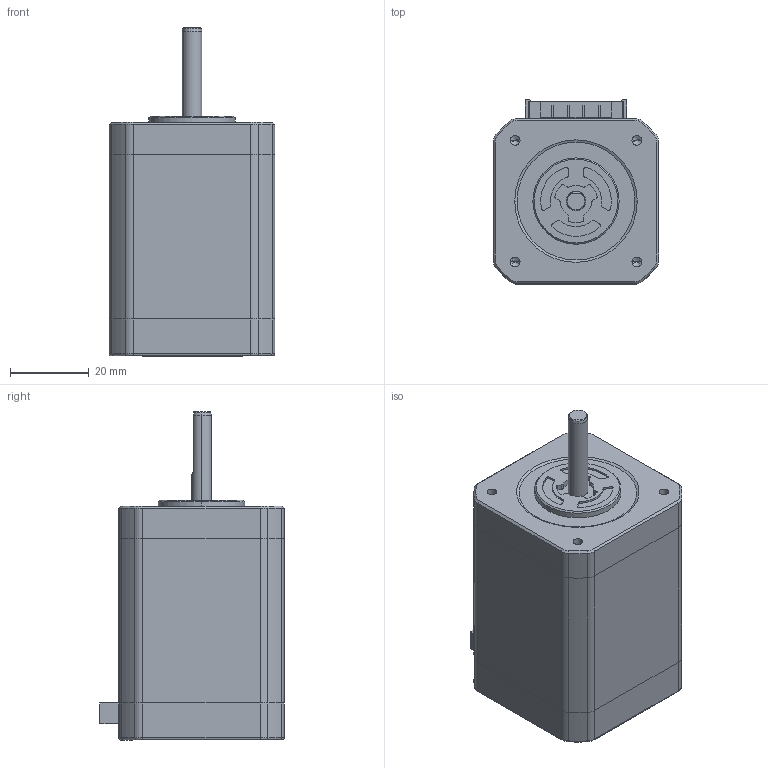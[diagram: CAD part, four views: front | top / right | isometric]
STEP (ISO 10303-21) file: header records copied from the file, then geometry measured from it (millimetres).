
FILE_DESCRIPTION (( 'STEP AP203' ), '1' );
FILE_NAME ('SF2424-12U41.STEP', '2019-08-08T09:56:55', ( 'sanyodenki-admin' ), ( '' ), 'SwSTEP 2.0', 'SolidWorks 2017', '' );
FILE_SCHEMA (( 'CONFIG_CONTROL_DESIGN' ));
Length unit declared in the file: millimetre
Products named in the file (1): SF2424-12U41
Bounding box: 42.15 x 46.98 x 83.6 mm (x, y, z)
Volume: 103153.7 mm3; surface area: 22448.4 mm2
Topology: 11 solids, 11 shells, 445 faces, 1104 edges, 694 vertices
Faces by surface type: plane 196, cylinder 181, cone 46, torus 14, bspline 8
Entity records: 13325 total; most frequent: CARTESIAN_POINT 2486, DIRECTION 2352, ORIENTED_EDGE 2180, EDGE_CURVE 1090, AXIS2_PLACEMENT_3D 842, VERTEX_POINT 694, LINE 668, VECTOR 668
